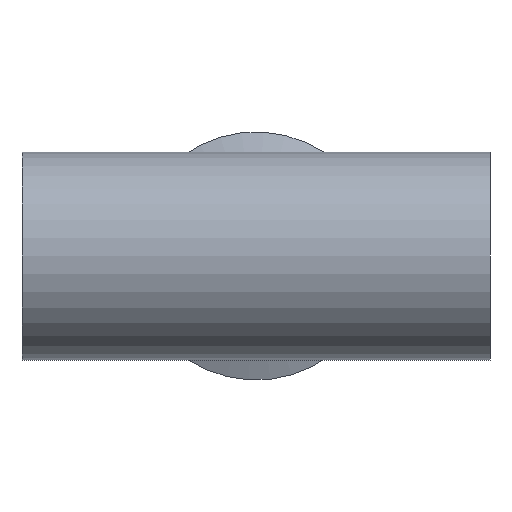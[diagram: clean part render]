
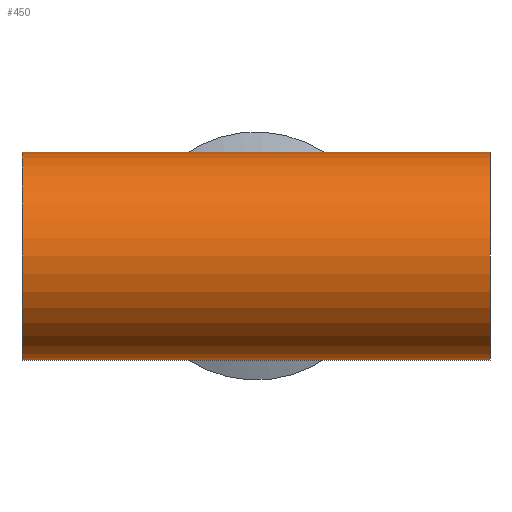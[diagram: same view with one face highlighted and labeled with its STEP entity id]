
A CAD part, front view. The second image highlights one B-rep face of the part: STEP entity #450.
In plain terms, the highlighted cylindrical face has radius 38.1 mm (diameter 76.2 mm), a partial arc.
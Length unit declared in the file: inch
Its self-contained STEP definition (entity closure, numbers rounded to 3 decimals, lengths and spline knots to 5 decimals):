
#19 = CIRCLE ( 'NONE', #523, 1.5 ) ;
#75 = DIRECTION ( 'NONE',  ( -1., 0., 0. ) ) ;
#80 = AXIS2_PLACEMENT_3D ( 'NONE', #460, #1070, #545 ) ;
#84 = VECTOR ( 'NONE', #1112, 39.37008 ) ;
#153 = ORIENTED_EDGE ( 'NONE', *, *, #1039, .T. ) ;
#165 = CARTESIAN_POINT ( 'NONE',  ( 3.375, 0., 1.5 ) ) ;
#175 = CARTESIAN_POINT ( 'NONE',  ( -3.375, 0., 1.5 ) ) ;
#196 = VERTEX_POINT ( 'NONE', #232 ) ;
#220 = CIRCLE ( 'NONE', #80, 1.5 ) ;
#232 = CARTESIAN_POINT ( 'NONE',  ( -3.375, 0., -1.5 ) ) ;
#349 = DIRECTION ( 'NONE',  ( -1., 0., 0. ) ) ;
#367 = VECTOR ( 'NONE', #349, 39.37008 ) ;
#387 = EDGE_CURVE ( 'NONE', #463, #196, #549, .T. ) ;
#429 = EDGE_CURVE ( 'NONE', #478, #196, #19, .T. ) ;
#432 = VERTEX_POINT ( 'NONE', #774 ) ;
#438 = CYLINDRICAL_SURFACE ( 'NONE', #776, 1.5 ) ;
#441 = ORIENTED_EDGE ( 'NONE', *, *, #1108, .F. ) ;
#450 = ADVANCED_FACE ( 'NONE', ( #473 ), #438, .T. ) ;
#460 = CARTESIAN_POINT ( 'NONE',  ( 3.375, 0., 0. ) ) ;
#463 = VERTEX_POINT ( 'NONE', #965 ) ;
#473 = FACE_OUTER_BOUND ( 'NONE', #852, .T. ) ;
#478 = VERTEX_POINT ( 'NONE', #175 ) ;
#504 = ORIENTED_EDGE ( 'NONE', *, *, #429, .T. ) ;
#523 = AXIS2_PLACEMENT_3D ( 'NONE', #603, #590, #1026 ) ;
#525 = VECTOR ( 'NONE', #859, 39.37008 ) ;
#536 = LINE ( 'NONE', #677, #84 ) ;
#545 = DIRECTION ( 'NONE',  ( 0., 0., -1. ) ) ;
#549 = LINE ( 'NONE', #1102, #525 ) ;
#551 = ORIENTED_EDGE ( 'NONE', *, *, #723, .F. ) ;
#590 = DIRECTION ( 'NONE',  ( 1., 0., 0. ) ) ;
#603 = CARTESIAN_POINT ( 'NONE',  ( -3.375, 0., 0. ) ) ;
#654 = ORIENTED_EDGE ( 'NONE', *, *, #387, .F. ) ;
#671 = DIRECTION ( 'NONE',  ( -1., 0., 0. ) ) ;
#677 = CARTESIAN_POINT ( 'NONE',  ( 3.375, 0., -1.5 ) ) ;
#694 = VERTEX_POINT ( 'NONE', #930 ) ;
#723 = EDGE_CURVE ( 'NONE', #694, #463, #536, .T. ) ;
#750 = VECTOR ( 'NONE', #75, 39.37008 ) ;
#774 = CARTESIAN_POINT ( 'NONE',  ( 0., 0., 1.5 ) ) ;
#776 = AXIS2_PLACEMENT_3D ( 'NONE', #1020, #671, #943 ) ;
#793 = CARTESIAN_POINT ( 'NONE',  ( 3.375, 0., 1.5 ) ) ;
#852 = EDGE_LOOP ( 'NONE', ( #551, #441, #153, #1008, #504, #654 ) ) ;
#859 = DIRECTION ( 'NONE',  ( -1., 0., 0. ) ) ;
#864 = LINE ( 'NONE', #165, #367 ) ;
#872 = CARTESIAN_POINT ( 'NONE',  ( 3.375, 0., 1.5 ) ) ;
#930 = CARTESIAN_POINT ( 'NONE',  ( 3.375, 0., -1.5 ) ) ;
#943 = DIRECTION ( 'NONE',  ( 0., 0., 1. ) ) ;
#953 = EDGE_CURVE ( 'NONE', #432, #478, #864, .T. ) ;
#965 = CARTESIAN_POINT ( 'NONE',  ( 0., 0., -1.5 ) ) ;
#974 = LINE ( 'NONE', #872, #750 ) ;
#1008 = ORIENTED_EDGE ( 'NONE', *, *, #953, .T. ) ;
#1020 = CARTESIAN_POINT ( 'NONE',  ( 3.375, 0., 0. ) ) ;
#1024 = VERTEX_POINT ( 'NONE', #793 ) ;
#1026 = DIRECTION ( 'NONE',  ( 0., 0., -1. ) ) ;
#1039 = EDGE_CURVE ( 'NONE', #1024, #432, #974, .T. ) ;
#1070 = DIRECTION ( 'NONE',  ( 1., 0., 0. ) ) ;
#1102 = CARTESIAN_POINT ( 'NONE',  ( 3.375, 0., -1.5 ) ) ;
#1108 = EDGE_CURVE ( 'NONE', #1024, #694, #220, .T. ) ;
#1112 = DIRECTION ( 'NONE',  ( -1., 0., 0. ) ) ;
